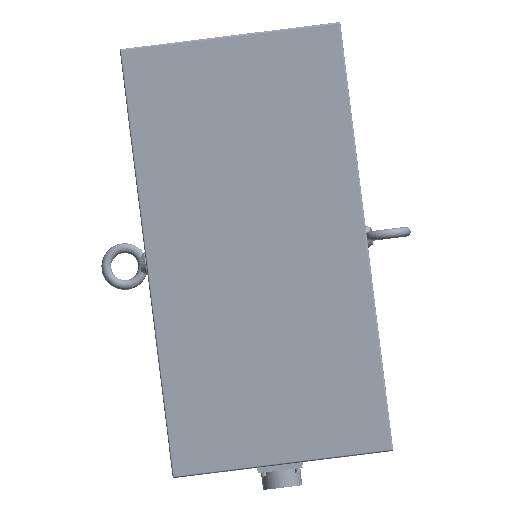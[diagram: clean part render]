
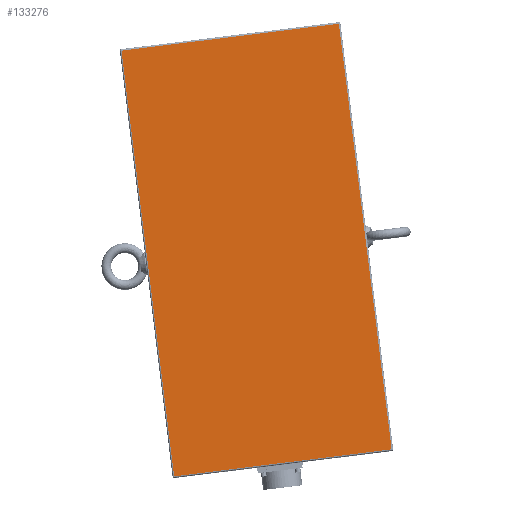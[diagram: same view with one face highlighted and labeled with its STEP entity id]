
A CAD part, top view. The second image highlights one B-rep face of the part: STEP entity #133276.
In plain terms, the highlighted planar face has unit normal (0, 0.001, 1).
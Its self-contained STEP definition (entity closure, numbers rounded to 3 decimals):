
#133237=CARTESIAN_POINT('',(151.804,-127.284,34.699));
#133238=DIRECTION('',(0.992,0.123,0.));
#133239=DIRECTION('',(0.,0.,-1.));
#133240=AXIS2_PLACEMENT_3D('',#133237,#133239,#133238);
#133241=PLANE('',#133240);
#133242=CARTESIAN_POINT('',(-156.037,112.687,34.579));
#133243=VERTEX_POINT('',#133242);
#133244=CARTESIAN_POINT('',(123.823,147.36,34.562));
#133245=VERTEX_POINT('',#133244);
#133246=CARTESIAN_POINT('',(-156.037,112.687,34.579));
#133247=DIRECTION('',(0.992,0.123,0.));
#133248=VECTOR('',#133247,282.);
#133249=LINE('',#133246,#133248);
#133250=EDGE_CURVE('',#133243,#133245,#133249,.T.);
#133251=ORIENTED_EDGE('E134',*,*,#133250,.T.);
#133252=CARTESIAN_POINT('',(191.693,-400.452,34.836));
#133253=VERTEX_POINT('',#133252);
#133254=CARTESIAN_POINT('',(123.823,147.36,34.562));
#133255=DIRECTION('',(0.123,-0.992,0.));
#133256=VECTOR('',#133255,552.);
#133257=LINE('',#133254,#133256);
#133258=EDGE_CURVE('',#133245,#133253,#133257,.T.);
#133259=ORIENTED_EDGE('E138',*,*,#133258,.T.);
#133260=CARTESIAN_POINT('',(-88.167,-435.125,34.853));
#133261=VERTEX_POINT('',#133260);
#133262=CARTESIAN_POINT('',(191.693,-400.452,34.836));
#133263=DIRECTION('',(-0.992,-0.123,0.));
#133264=VECTOR('',#133263,282.);
#133265=LINE('',#133262,#133264);
#133266=EDGE_CURVE('',#133253,#133261,#133265,.T.);
#133267=ORIENTED_EDGE('E140',*,*,#133266,.T.);
#133268=CARTESIAN_POINT('',(-88.167,-435.125,34.853));
#133269=DIRECTION('',(-0.123,0.992,0.));
#133270=VECTOR('',#133269,552.);
#133271=LINE('',#133268,#133270);
#133272=EDGE_CURVE('',#133261,#133243,#133271,.T.);
#133273=ORIENTED_EDGE('E137',*,*,#133272,.T.);
#133274=EDGE_LOOP('',(#133251,#133259,#133267,#133273));
#133275=FACE_OUTER_BOUND('',#133274,.F.);
#133276=ADVANCED_FACE('F2',(#133275),#133241,.F.);
